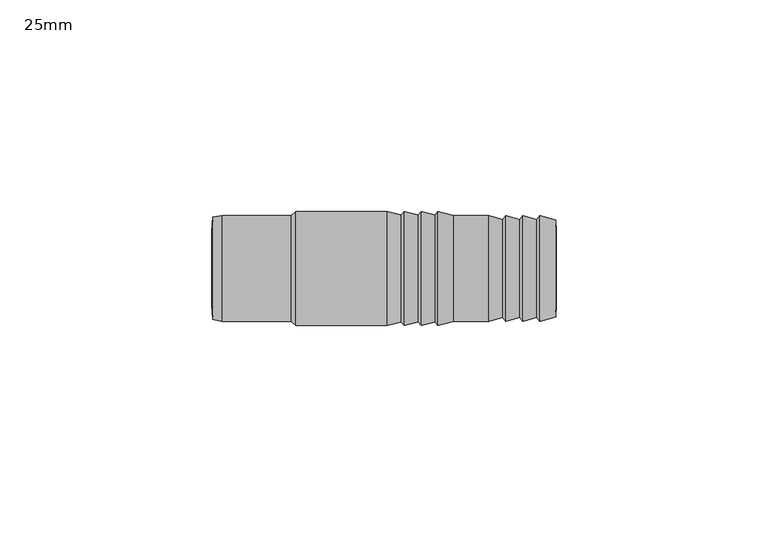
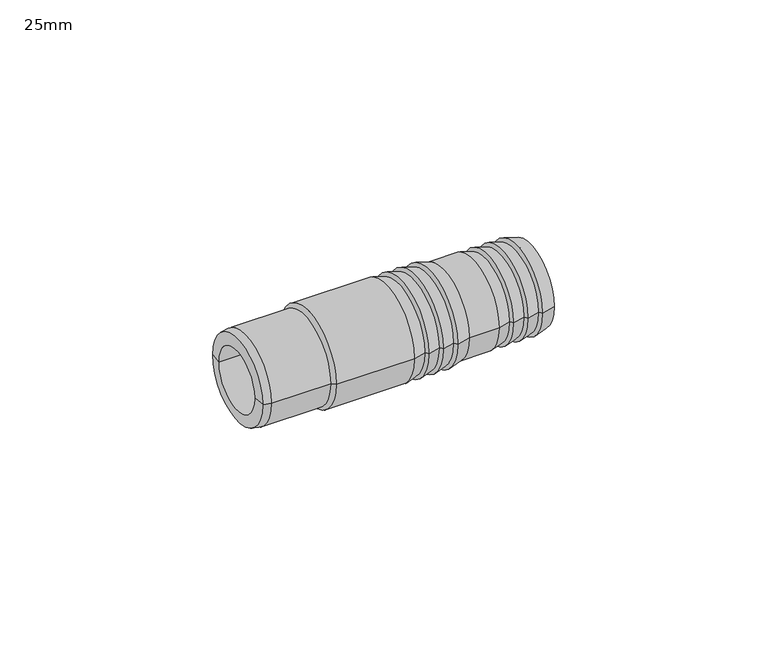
"""IFC4 building model written with IfcOpenShell, lengths in millimetres: pipe fitting geometry, Durapipe_PipeAccessories_PVC_HoseAdaptor : 25mm."""

import ifcopenshell
import ifcopenshell.guid

model = None  # the IFC model being written
_history = None  # IfcOwnerHistory: only IFC2X3 demands one
_inside = {}  # id of a spatial element -> (the spatial element, [elements in it])
_under = {}  # id of a project, library or spatial element -> (it, [spatial elements below it])
_declared = {}  # id of a project -> (the project, [libraries it declares])
_typed = {}  # id of a type object -> (the type object, [elements of that type])
_made_of = {}  # id of a material, layer set ... -> (it, [elements and type objects made of it])


def new_model(schema):
    """Start an empty IFC model of exactly this schema.

    Asked for "IFC4X3", IfcOpenShell would pick the latest addendum, in which some entities
    have other attributes; the version numbers below select the first issue.
    IFC2X3 requires an IfcOwnerHistory on every rooted entity: one is made here for all.
    """
    global model, _history
    if schema == "IFC4X3":
        model = ifcopenshell.file(schema_version=(4, 3, 0, 0))
    else:
        model = ifcopenshell.file(schema=schema)
    _inside.clear()
    _under.clear()
    _declared.clear()
    _typed.clear()
    _made_of.clear()
    _history = None
    if model.schema == "IFC2X3":
        org = make("IfcOrganization", Name="unknown")
        user = make(
            "IfcPersonAndOrganization",
            ThePerson=make("IfcPerson", FamilyName="unknown"),
            TheOrganization=org,
        )
        app = make(
            "IfcApplication",
            ApplicationDeveloper=org,
            Version="unknown",
            ApplicationFullName="unknown",
            ApplicationIdentifier="unknown",
        )
        _history = make(
            "IfcOwnerHistory",
            OwningUser=user,
            OwningApplication=app,
            ChangeAction="ADDED",
            CreationDate=0,
        )
    return model


def make(cls, **values):
    """One entity of the class cls with the attributes given. An attribute that is None is left unset."""
    return model.create_entity(
        cls, **{name: value for name, value in values.items() if value is not None}
    )


def rooted(cls, **values):
    """An entity with a GlobalId (a new one), such as an element, a storey or a relation."""
    return make(cls, GlobalId=ifcopenshell.guid.new(), OwnerHistory=_history, **values)


def si_unit(unit_type, name, prefix=None):
    """IfcSIUnit, for example si_unit("LENGTHUNIT", "METRE", prefix="MILLI")."""
    return make("IfcSIUnit", UnitType=unit_type, Prefix=prefix, Name=name)


def assignment(units):
    """IfcUnitAssignment: the units of a project."""
    return None if units is None else make("IfcUnitAssignment", Units=units)


def point(xyz):
    """IfcCartesianPoint."""
    return None if xyz is None else make("IfcCartesianPoint", Coordinates=xyz)


def direction(xyz):
    """IfcDirection."""
    return None if xyz is None else make("IfcDirection", DirectionRatios=xyz)


def frame(location, z_axis=None, x_axis=None):
    """IfcAxis2Placement3D, a coordinate frame: its origin and axes. An axis left out is left unset."""
    return make(
        "IfcAxis2Placement3D",
        Location=point(location),
        Axis=direction(z_axis),
        RefDirection=direction(x_axis),
    )


def origin():
    """The frame at (0, 0, 0) with its axes left unset."""
    return frame((0.0, 0.0, 0.0))


def place(relative_to, where):
    """IfcLocalPlacement: puts the frame where relative to a parent placement (None: the world)."""
    return make(
        "IfcLocalPlacement", PlacementRelTo=relative_to, RelativePlacement=where
    )


def context(
    kind, dimensions, precision=None, world=None, true_north=None, identifier=None
):
    """IfcGeometricRepresentationContext, for example the 3D "Model" context."""
    return make(
        "IfcGeometricRepresentationContext",
        ContextIdentifier=identifier,
        ContextType=kind,
        CoordinateSpaceDimension=dimensions,
        Precision=precision,
        WorldCoordinateSystem=world,
        TrueNorth=true_north,
    )


def project(units=None, contexts=None):
    """IfcProject with its units and contexts."""
    return rooted(
        "IfcProject",
        Name="project",
        RepresentationContexts=contexts,
        UnitsInContext=assignment(units),
    )


def spatial(cls, under=None, at=None, **own):
    """A site, building, storey or space (cls), placed at a placement, below another one or the project."""
    s = rooted(cls, ObjectPlacement=at, **own)
    if under is not None:
        _under.setdefault(under.id(), (under, []))[1].append(s)
    return s


def polyline(points):
    """IfcPolyline through the points."""
    return make("IfcPolyline", Points=[point(p) for p in points])


def circle_curve(where, radius):
    """IfcCircle in the frame where."""
    return make("IfcCircle", Position=where, Radius=radius)


def shape(context_of_items, identifier, shape_type, items):
    """IfcShapeRepresentation: the items that make up one representation, for example the "Body"."""
    return make(
        "IfcShapeRepresentation",
        ContextOfItems=context_of_items,
        RepresentationIdentifier=identifier,
        RepresentationType=shape_type,
        Items=items,
    )


def source(mapping_origin, context_of_items, identifier, shape_type, items):
    """IfcRepresentationMap: a shape defined once, which mapped items show again and again."""
    return make(
        "IfcRepresentationMap",
        MappingOrigin=mapping_origin,
        MappedRepresentation=shape(context_of_items, identifier, shape_type, items),
    )


def transform(
    local_origin,
    x_axis=None,
    y_axis=None,
    z_axis=None,
    scale=None,
    scale2=None,
    scale3=None,
    uniform=True,
):
    """IfcCartesianTransformationOperator3D, or its non-uniform kind. x_axis, y_axis, z_axis: its Axis1, 2, 3."""
    if uniform:
        return make(
            "IfcCartesianTransformationOperator3D",
            Axis1=direction(x_axis),
            Axis2=direction(y_axis),
            LocalOrigin=point(local_origin),
            Scale=scale,
            Axis3=direction(z_axis),
        )
    return make(
        "IfcCartesianTransformationOperator3DnonUniform",
        Axis1=direction(x_axis),
        Axis2=direction(y_axis),
        LocalOrigin=point(local_origin),
        Scale=scale,
        Axis3=direction(z_axis),
        Scale2=scale2,
        Scale3=scale3,
    )


def mapped(mapping_source, mapping_target):
    """IfcMappedItem: shows the shape of a source again, moved by a transform."""
    return make(
        "IfcMappedItem", MappingSource=mapping_source, MappingTarget=mapping_target
    )


def made_of(thing, what):
    """Note that an element or type object is made of a material, layer set ...; save() writes the relation."""
    if what is not None:
        _made_of.setdefault(what.id(), (what, []))[1].append(thing)
    return thing


def element(
    cls,
    number,
    at=None,
    inside=None,
    cuts=None,
    type_object=None,
    material=None,
    context=None,
    identifier="Body",
    shape_type=None,
    held_by="IfcProductDefinitionShape",
    body=None,
    shapes=None,
    **own,
):
    """One element of the class cls, such as IfcWall. Its Tag is "e" and its number.

    at: its placement. inside: the storey or other place that contains it. cuts: it is an
    opening in that element (IfcRelVoidsElement). A single representation is given by context,
    identifier, shape_type and body (its items); several are given by shapes. held_by: the class
    of the entity that holds the representations. save() writes the other relations.
    """
    e = rooted(cls, Tag="e%d" % number, ObjectPlacement=at, **own)
    if body is not None:
        shapes = [shape(context, identifier, shape_type, body)]
    if shapes is not None:
        e.Representation = make(held_by, Representations=shapes)
    if inside is not None:
        _inside.setdefault(inside.id(), (inside, []))[1].append(e)
    if cuts is not None:
        rooted(
            "IfcRelVoidsElement", RelatingBuildingElement=cuts, RelatedOpeningElement=e
        )
    if type_object is not None:
        _typed.setdefault(type_object.id(), (type_object, []))[1].append(e)
    return made_of(e, material)


def aggregate(whole, parts):
    """IfcRelAggregates: a whole, such as a stair, and the parts it consists of."""
    return rooted("IfcRelAggregates", RelatingObject=whole, RelatedObjects=parts)


def save(model, path):
    """Write the relations noted so far, then the file.

    IfcRelAggregates (storeys below a building ...), IfcRelContainedInSpatialStructure (elements
    in a storey), IfcRelDefinesByType, IfcRelAssociatesMaterial and IfcRelDeclares: one each for
    every whole, place, type object, material and project.
    """
    for whole, parts in _under.values():
        aggregate(whole, parts)
    for where, things in _inside.values():
        rooted(
            "IfcRelContainedInSpatialStructure",
            RelatedElements=things,
            RelatingStructure=where,
        )
    for kind, things in _typed.values():
        rooted("IfcRelDefinesByType", RelatedObjects=things, RelatingType=kind)
    for what, things in _made_of.values():
        rooted("IfcRelAssociatesMaterial", RelatedObjects=things, RelatingMaterial=what)
    for by, libraries in _declared.values():
        rooted("IfcRelDeclares", RelatingContext=by, RelatedDefinitions=libraries)
    model.write(path)


def cylinder_surface(at, radius):
    """IfcCylindricalSurface: all points at the distance radius from the z axis of the frame at."""
    return make("IfcCylindricalSurface", Position=at, Radius=radius)


def revolved_surface(curve, axis_point, axis_direction):
    """IfcSurfaceOfRevolution: the curve turned about the line through axis_point along axis_direction."""
    return make(
        "IfcSurfaceOfRevolution",
        SweptCurve=make("IfcArbitraryOpenProfileDef", ProfileType="CURVE", Curve=curve),
        AxisPosition=make("IfcAxis1Placement", Location=point(axis_point), Axis=direction(axis_direction)),
    )


def advanced_brep(points, edges, surfaces, faces):
    """IfcAdvancedBrep: a solid bounded by faces that lie on surfaces and meet in shared edges.

    An edge is (start, end): straight between two places in points (the first is 0);
    or (start, end, curve); or (start, end, curve, False) where it runs against its curve.
    A face is (place in surfaces, loops), or (place, loops, False) where it looks against
    its surface's normal. A loop lists edges by number (the first is 1), with a minus sign
    where the edge is run from its end to its start. The first loop is the outer one.
    """
    corners = [point(p) for p in points]
    vertices = [make("IfcVertexPoint", VertexGeometry=c) for c in corners]
    made = []
    for start, end, *more in edges:
        made.append(
            make(
                "IfcEdgeCurve",
                EdgeStart=vertices[start],
                EdgeEnd=vertices[end],
                EdgeGeometry=more[0] if more else make("IfcPolyline", Points=[corners[start], corners[end]]),
                SameSense=more[1] if len(more) > 1 else True,
            )
        )
    hull = []
    for where, loops, *sense in faces:
        bounds = []
        for j, loop in enumerate(loops):
            ring = [make("IfcOrientedEdge", EdgeElement=made[abs(k) - 1], Orientation=k > 0) for k in loop]
            bounds.append(
                make(
                    "IfcFaceOuterBound" if j == 0 else "IfcFaceBound",
                    Bound=make("IfcEdgeLoop", EdgeList=ring),
                    Orientation=True,
                )
            )
        hull.append(make("IfcAdvancedFace", Bounds=bounds, FaceSurface=surfaces[where], SameSense=sense[0] if sense else True))
    return make("IfcAdvancedBrep", Outer=make("IfcClosedShell", CfsFaces=hull))


def pipe_fitting_25mm_09818e58(model_context):
    return source(origin(), model_context, "Body", "AdvancedBrep", [
        advanced_brep(
        [(40.5324601, -11.4864929, 0.0), (40.5324601, 11.4864929, 0.0), (40.75, 8.75, 0.0), (40.75, -8.75, 0.0), (36.75, -12.5, 0.0), (36.75, 12.5, 0.0), (36.0956805, -11.6035276, 0.0), (36.0956805, 11.6035276, 0.0), (32.75, -12.5, 0.0), (32.75, 12.5, 0.0), (32.0956805, -11.6035276, 0.0), (32.0956805, 11.6035276, 0.0), (28.75, -12.5, 0.0), (28.75, 12.5, 0.0), (28.0956805, -11.6035276, 0.0), (28.0956805, 11.6035276, 0.0), (24.75, -12.5, 0.0), (24.75, 12.5, 0.0), (16.4820508, -12.5, 0.0), (16.4820508, 12.5, 0.0), (12.75, -13.5, 0.0), (12.75, 13.5, 0.0), (12.0956805, -12.6035276, 0.0), (12.0956805, 12.6035276, 0.0), (8.75, -13.5, 0.0), (8.75, 13.5, 0.0), (8.0956805, -12.6035276, 0.0), (8.0956805, 12.6035276, 0.0), (4.75, -13.5, 0.0), (4.75, 13.5, 0.0), (4.0956805, -12.6035276, 0.0), (4.0956805, 12.6035276, 0.0), (0.75, -13.5, 0.0), (0.75, 13.5, 0.0), (-20.8839746, -13.5, 0.0), (-20.8839746, 13.5, 0.0), (-21.8839746, -12.5, 0.0), (-21.8839746, 12.5, 0.0), (-38.25, -12.5, 0.0), (-38.25, 12.5, 0.0), (-40.4559478, -12.1110319, 0.0), (-40.4559478, 12.1110319, 0.0), (-40.75, -8.75, 0.0), (-40.75, 8.75, 0.0)],
        [
            (0, 1, circle_curve(frame((40.5324601, 0.0, 0.0), z_axis=(1.0, 0.0, 0.0), x_axis=(0.0, 1.0, 0.0)), 11.4864929)),
            (1, 2),
            (2, 3, circle_curve(frame((40.75, 0.0, 0.0), z_axis=(-1.0, 0.0, 0.0), x_axis=(0.0, 1.0, 0.0)), 8.75)),
            (3, 0),
            (1, 0, circle_curve(frame((40.5324601, 0.0, 0.0), z_axis=(1.0, 0.0, 0.0), x_axis=(0.0, 1.0, 0.0)), 11.4864929)),
            (3, 2, circle_curve(frame((40.75, 0.0, 0.0), z_axis=(-1.0, 0.0, 0.0), x_axis=(0.0, 1.0, 0.0)), 8.75)),
            (4, 5, circle_curve(frame((36.75, 0.0, 0.0), z_axis=(1.0, 0.0, 0.0), x_axis=(0.0, 1.0, 0.0)), 12.5)),
            (5, 1),
            (0, 4),
            (5, 4, circle_curve(frame((36.75, 0.0, 0.0), z_axis=(1.0, 0.0, 0.0), x_axis=(0.0, 1.0, 0.0)), 12.5)),
            (6, 7, circle_curve(frame((36.0956805, 0.0, 0.0), z_axis=(1.0, 0.0, 0.0), x_axis=(0.0, 1.0, 0.0)), 11.6035276)),
            (7, 5),
            (4, 6),
            (7, 6, circle_curve(frame((36.0956805, 0.0, 0.0), z_axis=(1.0, 0.0, 0.0), x_axis=(0.0, 1.0, 0.0)), 11.6035276)),
            (8, 9, circle_curve(frame((32.75, 0.0, 0.0), z_axis=(1.0, 0.0, 0.0), x_axis=(0.0, 1.0, 0.0)), 12.5)),
            (9, 7),
            (6, 8),
            (9, 8, circle_curve(frame((32.75, 0.0, 0.0), z_axis=(1.0, 0.0, 0.0), x_axis=(0.0, 1.0, 0.0)), 12.5)),
            (10, 11, circle_curve(frame((32.0956805, 0.0, 0.0), z_axis=(1.0, 0.0, 0.0), x_axis=(0.0, 1.0, 0.0)), 11.6035276)),
            (11, 9),
            (8, 10),
            (11, 10, circle_curve(frame((32.0956805, 0.0, 0.0), z_axis=(1.0, 0.0, 0.0), x_axis=(0.0, 1.0, 0.0)), 11.6035276)),
            (12, 13, circle_curve(frame((28.75, 0.0, 0.0), z_axis=(1.0, 0.0, 0.0), x_axis=(0.0, 1.0, 0.0)), 12.5)),
            (13, 11),
            (10, 12),
            (13, 12, circle_curve(frame((28.75, 0.0, 0.0), z_axis=(1.0, 0.0, 0.0), x_axis=(0.0, 1.0, 0.0)), 12.5)),
            (14, 15, circle_curve(frame((28.0956805, 0.0, 0.0), z_axis=(1.0, 0.0, 0.0), x_axis=(0.0, 1.0, 0.0)), 11.6035276)),
            (15, 13),
            (12, 14),
            (15, 14, circle_curve(frame((28.0956805, 0.0, 0.0), z_axis=(1.0, 0.0, 0.0), x_axis=(0.0, 1.0, 0.0)), 11.6035276)),
            (16, 17, circle_curve(frame((24.75, 0.0, 0.0), z_axis=(1.0, 0.0, 0.0), x_axis=(0.0, 1.0, 0.0)), 12.5)),
            (17, 15),
            (14, 16),
            (17, 16, circle_curve(frame((24.75, 0.0, 0.0), z_axis=(1.0, 0.0, 0.0), x_axis=(0.0, 1.0, 0.0)), 12.5)),
            (18, 19, circle_curve(frame((16.4820508, 0.0, 0.0), z_axis=(1.0, 0.0, 0.0), x_axis=(0.0, 1.0, 0.0)), 12.5)),
            (19, 17),
            (16, 18),
            (19, 18, circle_curve(frame((16.4820508, 0.0, 0.0), z_axis=(1.0, 0.0, 0.0), x_axis=(0.0, 1.0, 0.0)), 12.5)),
            (20, 21, circle_curve(frame((12.75, 0.0, 0.0), z_axis=(1.0, 0.0, 0.0), x_axis=(0.0, 1.0, 0.0)), 13.5)),
            (21, 19),
            (18, 20),
            (21, 20, circle_curve(frame((12.75, 0.0, 0.0), z_axis=(1.0, 0.0, 0.0), x_axis=(0.0, 1.0, 0.0)), 13.5)),
            (22, 23, circle_curve(frame((12.0956805, 0.0, 0.0), z_axis=(1.0, 0.0, 0.0), x_axis=(0.0, 1.0, 0.0)), 12.6035276)),
            (23, 21),
            (20, 22),
            (23, 22, circle_curve(frame((12.0956805, 0.0, 0.0), z_axis=(1.0, 0.0, 0.0), x_axis=(0.0, 1.0, 0.0)), 12.6035276)),
            (24, 25, circle_curve(frame((8.75, 0.0, 0.0), z_axis=(1.0, 0.0, 0.0), x_axis=(0.0, 1.0, 0.0)), 13.5)),
            (25, 23),
            (22, 24),
            (25, 24, circle_curve(frame((8.75, 0.0, 0.0), z_axis=(1.0, 0.0, 0.0), x_axis=(0.0, 1.0, 0.0)), 13.5)),
            (26, 27, circle_curve(frame((8.0956805, 0.0, 0.0), z_axis=(1.0, 0.0, 0.0), x_axis=(0.0, 1.0, 0.0)), 12.6035276)),
            (27, 25),
            (24, 26),
            (27, 26, circle_curve(frame((8.0956805, 0.0, 0.0), z_axis=(1.0, 0.0, 0.0), x_axis=(0.0, 1.0, 0.0)), 12.6035276)),
            (28, 29, circle_curve(frame((4.75, 0.0, 0.0), z_axis=(1.0, 0.0, 0.0), x_axis=(0.0, 1.0, 0.0)), 13.5)),
            (29, 27),
            (26, 28),
            (29, 28, circle_curve(frame((4.75, 0.0, 0.0), z_axis=(1.0, 0.0, 0.0), x_axis=(0.0, 1.0, 0.0)), 13.5)),
            (30, 31, circle_curve(frame((4.0956805, 0.0, 0.0), z_axis=(1.0, 0.0, 0.0), x_axis=(0.0, 1.0, 0.0)), 12.6035276)),
            (31, 29),
            (28, 30),
            (31, 30, circle_curve(frame((4.0956805, 0.0, 0.0), z_axis=(1.0, 0.0, 0.0), x_axis=(0.0, 1.0, 0.0)), 12.6035276)),
            (32, 33, circle_curve(frame((0.75, 0.0, 0.0), z_axis=(1.0, 0.0, 0.0), x_axis=(0.0, 1.0, 0.0)), 13.5)),
            (33, 31),
            (30, 32),
            (33, 32, circle_curve(frame((0.75, 0.0, 0.0), z_axis=(1.0, 0.0, 0.0), x_axis=(0.0, 1.0, 0.0)), 13.5)),
            (34, 35, circle_curve(frame((-20.8839746, 0.0, 0.0), z_axis=(1.0, 0.0, 0.0), x_axis=(0.0, 1.0, 0.0)), 13.5)),
            (35, 33),
            (32, 34),
            (35, 34, circle_curve(frame((-20.8839746, 0.0, 0.0), z_axis=(1.0, 0.0, 0.0), x_axis=(0.0, 1.0, 0.0)), 13.5)),
            (36, 37, circle_curve(frame((-21.8839746, 0.0, 0.0), z_axis=(1.0, 0.0, 0.0), x_axis=(0.0, 1.0, 0.0)), 12.5)),
            (37, 35),
            (34, 36),
            (37, 36, circle_curve(frame((-21.8839746, 0.0, 0.0), z_axis=(1.0, 0.0, 0.0), x_axis=(0.0, 1.0, 0.0)), 12.5)),
            (38, 39, circle_curve(frame((-38.25, 0.0, 0.0), z_axis=(1.0, 0.0, 0.0), x_axis=(0.0, 1.0, 0.0)), 12.5)),
            (39, 37),
            (36, 38),
            (39, 38, circle_curve(frame((-38.25, 0.0, 0.0), z_axis=(1.0, 0.0, 0.0), x_axis=(0.0, 1.0, 0.0)), 12.5)),
            (40, 41, circle_curve(frame((-40.4559478, 0.0, 0.0), z_axis=(1.0, 0.0, 0.0), x_axis=(0.0, 1.0, 0.0)), 12.1110319)),
            (41, 39),
            (38, 40),
            (41, 40, circle_curve(frame((-40.4559478, 0.0, 0.0), z_axis=(1.0, 0.0, 0.0), x_axis=(0.0, 1.0, 0.0)), 12.1110319)),
            (42, 43, circle_curve(frame((-40.75, 0.0, 0.0), z_axis=(1.0, 0.0, 0.0), x_axis=(0.0, 1.0, 0.0)), 8.75)),
            (43, 41),
            (40, 42),
            (43, 42, circle_curve(frame((-40.75, 0.0, 0.0), z_axis=(1.0, 0.0, 0.0), x_axis=(0.0, 1.0, 0.0)), 8.75)),
            (2, 43),
            (42, 3),
        ],
        [
            revolved_surface(polyline([(40.75, 8.75, 0.0), (40.5324601, 11.4864929, 0.0)]), (-38.25, 0.0, 0.0), (-1.0, 0.0, 0.0)),
            revolved_surface(polyline([(40.5324601, 11.4864929, 0.0), (36.75, 12.5, 0.0)]), (-38.25, 0.0, 0.0), (-1.0, 0.0, 0.0)),
            revolved_surface(polyline([(36.75, 12.5, 0.0), (36.0956805, 11.6035276, 0.0)]), (-38.25, 0.0, 0.0), (-1.0, 0.0, 0.0)),
            revolved_surface(polyline([(36.0956805, 11.6035276, 0.0), (32.75, 12.5, 0.0)]), (-38.25, 0.0, 0.0), (-1.0, 0.0, 0.0)),
            revolved_surface(polyline([(32.75, 12.5, 0.0), (32.0956805, 11.6035276, 0.0)]), (-38.25, 0.0, 0.0), (-1.0, 0.0, 0.0)),
            revolved_surface(polyline([(32.0956805, 11.6035276, 0.0), (28.75, 12.5, 0.0)]), (-38.25, 0.0, 0.0), (-1.0, 0.0, 0.0)),
            revolved_surface(polyline([(28.75, 12.5, 0.0), (28.0956805, 11.6035276, 0.0)]), (-38.25, 0.0, 0.0), (-1.0, 0.0, 0.0)),
            revolved_surface(polyline([(28.0956805, 11.6035276, 0.0), (24.75, 12.5, 0.0)]), (-38.25, 0.0, 0.0), (-1.0, 0.0, 0.0)),
            cylinder_surface(frame((-38.25, 0.0, 0.0), z_axis=(-1.0, 0.0, 0.0), x_axis=(0.0, 1.0, 0.0)), 12.5),
            revolved_surface(polyline([(16.4820508, 12.5, 0.0), (12.75, 13.5, 0.0)]), (-38.25, 0.0, 0.0), (-1.0, 0.0, 0.0)),
            revolved_surface(polyline([(12.75, 13.5, 0.0), (12.0956805, 12.6035276, 0.0)]), (-38.25, 0.0, 0.0), (-1.0, 0.0, 0.0)),
            revolved_surface(polyline([(12.0956805, 12.6035276, 0.0), (8.75, 13.5, 0.0)]), (-38.25, 0.0, 0.0), (-1.0, 0.0, 0.0)),
            revolved_surface(polyline([(8.75, 13.5, 0.0), (8.0956805, 12.6035276, 0.0)]), (-38.25, 0.0, 0.0), (-1.0, 0.0, 0.0)),
            revolved_surface(polyline([(8.0956805, 12.6035276, 0.0), (4.75, 13.5, 0.0)]), (-38.25, 0.0, 0.0), (-1.0, 0.0, 0.0)),
            revolved_surface(polyline([(4.75, 13.5, 0.0), (4.0956805, 12.6035276, 0.0)]), (-38.25, 0.0, 0.0), (-1.0, 0.0, 0.0)),
            revolved_surface(polyline([(4.0956805, 12.6035276, 0.0), (0.75, 13.5, 0.0)]), (-38.25, 0.0, 0.0), (-1.0, 0.0, 0.0)),
            cylinder_surface(frame((-38.25, 0.0, 0.0), z_axis=(-1.0, 0.0, 0.0), x_axis=(0.0, 1.0, 0.0)), 13.5),
            revolved_surface(polyline([(-20.8839746, 13.5, 0.0), (-21.8839746, 12.5, 0.0)]), (-38.25, 0.0, 0.0), (-1.0, 0.0, 0.0)),
            revolved_surface(polyline([(-38.25, 12.5, 0.0), (-40.4559478, 12.1110319, 0.0)]), (-38.25, 0.0, 0.0), (-1.0, 0.0, 0.0)),
            revolved_surface(polyline([(-40.4559478, 12.1110319, 0.0), (-40.75, 8.75, 0.0)]), (-38.25, 0.0, 0.0), (-1.0, 0.0, 0.0)),
            revolved_surface(polyline([(-40.75, 8.75, 0.0), (40.75, 8.75, 0.0)]), (-38.25, 0.0, 0.0), (-1.0, 0.0, 0.0)),
        ],
        [
            (0, [[1, 2, 3, 4]]),
            (0, [[5, -4, 6, -2]]),
            (1, [[7, 8, -1, 9]]),
            (1, [[10, -9, -5, -8]]),
            (2, [[11, 12, -7, 13]]),
            (2, [[14, -13, -10, -12]]),
            (3, [[15, 16, -11, 17]]),
            (3, [[18, -17, -14, -16]]),
            (4, [[19, 20, -15, 21]]),
            (4, [[22, -21, -18, -20]]),
            (5, [[23, 24, -19, 25]]),
            (5, [[26, -25, -22, -24]]),
            (6, [[27, 28, -23, 29]]),
            (6, [[30, -29, -26, -28]]),
            (7, [[31, 32, -27, 33]]),
            (7, [[34, -33, -30, -32]]),
            (8, [[35, 36, -31, 37]]),
            (8, [[38, -37, -34, -36]]),
            (9, [[39, 40, -35, 41]]),
            (9, [[42, -41, -38, -40]]),
            (10, [[43, 44, -39, 45]]),
            (10, [[46, -45, -42, -44]]),
            (11, [[47, 48, -43, 49]]),
            (11, [[50, -49, -46, -48]]),
            (12, [[51, 52, -47, 53]]),
            (12, [[54, -53, -50, -52]]),
            (13, [[55, 56, -51, 57]]),
            (13, [[58, -57, -54, -56]]),
            (14, [[59, 60, -55, 61]]),
            (14, [[62, -61, -58, -60]]),
            (15, [[63, 64, -59, 65]]),
            (15, [[66, -65, -62, -64]]),
            (16, [[67, 68, -63, 69]]),
            (16, [[70, -69, -66, -68]]),
            (17, [[71, 72, -67, 73]]),
            (17, [[74, -73, -70, -72]]),
            (8, [[75, 76, -71, 77]]),
            (8, [[78, -77, -74, -76]]),
            (18, [[79, 80, -75, 81]]),
            (18, [[82, -81, -78, -80]]),
            (19, [[83, 84, -79, 85]]),
            (19, [[86, -85, -82, -84]]),
            (20, [[-3, 87, -83, 88]]),
            (20, [[-6, -88, -86, -87]]),
        ],
    ),
    ])


if __name__ == "__main__":
    model = new_model("IFC4")
    model_context = context("Model", 3, world=origin())
    ifc_project = project(units=[si_unit("LENGTHUNIT", "METRE", prefix="MILLI")], contexts=[model_context])
    site = spatial("IfcSite", under=ifc_project)
    building = spatial("IfcBuilding", under=site)
    placement = place(None, origin())
    pipe_fitting_25mm_shape = pipe_fitting_25mm_09818e58(model_context)
    element("IfcPipeFitting", 1, ObjectType="Durapipe_PipeAccessories_PVC_HoseAdaptor : 25mm", at=placement, inside=building, context=model_context, shape_type="MappedRepresentation", body=[
        mapped(pipe_fitting_25mm_shape, transform((0.0, 0.0, 0.0), x_axis=(1.0, 0.0, 0.0), y_axis=(0.0, 1.0, 0.0), z_axis=(0.0, 0.0, 1.0))),
    ])
    save(model, "model.ifc")
